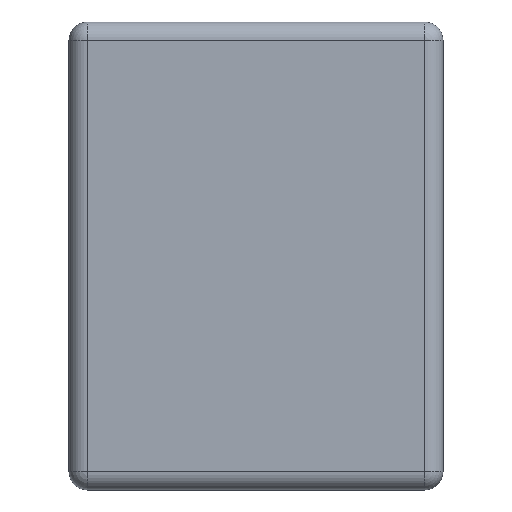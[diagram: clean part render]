
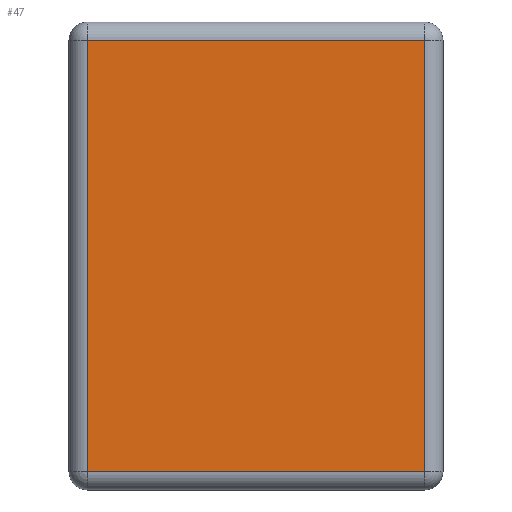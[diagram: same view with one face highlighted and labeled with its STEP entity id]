
A CAD part, front view. The second image highlights one B-rep face of the part: STEP entity #47.
In plain terms, the highlighted planar face has unit normal (0, -1, 0).
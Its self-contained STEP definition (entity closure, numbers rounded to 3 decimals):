
#14 = VERTEX_POINT ( 'NONE', #362 ) ;
#23 = ORIENTED_EDGE ( 'NONE', *, *, #63, .T. ) ;
#31 = VERTEX_POINT ( 'NONE', #590 ) ;
#33 = VERTEX_POINT ( 'NONE', #569 ) ;
#34 = EDGE_LOOP ( 'NONE', ( #75, #70, #46, #23 ) ) ;
#38 = EDGE_CURVE ( 'NONE', #31, #33, #575, .T. ) ;
#40 = EDGE_CURVE ( 'NONE', #14, #53, #562, .T. ) ;
#46 = ORIENTED_EDGE ( 'NONE', *, *, #38, .T. ) ;
#47 = ADVANCED_FACE ( 'NONE', ( #548 ), #593, .F. ) ;
#53 = VERTEX_POINT ( 'NONE', #585 ) ;
#63 = EDGE_CURVE ( 'NONE', #33, #14, #597, .T. ) ;
#70 = ORIENTED_EDGE ( 'NONE', *, *, #71, .T. ) ;
#71 = EDGE_CURVE ( 'NONE', #53, #31, #609, .T. ) ;
#75 = ORIENTED_EDGE ( 'NONE', *, *, #40, .T. ) ;
#362 = CARTESIAN_POINT ( 'NONE',  ( 18.3, 0., -23.4 ) ) ;
#547 = DIRECTION ( 'NONE',  ( 0., 1., 0. ) ) ;
#548 = FACE_OUTER_BOUND ( 'NONE', #34, .T. ) ;
#553 = DIRECTION ( 'NONE',  ( 0., 0., 1. ) ) ;
#554 = VECTOR ( 'NONE', #553, 1000. ) ;
#555 = CARTESIAN_POINT ( 'NONE',  ( 18.3, 0., -25.4 ) ) ;
#556 = DIRECTION ( 'NONE',  ( 0., 0., -1. ) ) ;
#557 = CARTESIAN_POINT ( 'NONE',  ( -18.3, 0., -25.4 ) ) ;
#560 = VECTOR ( 'NONE', #556, 1000. ) ;
#562 = LINE ( 'NONE', #555, #554 ) ;
#568 = DIRECTION ( 'NONE',  ( 0., 0., 1. ) ) ;
#569 = CARTESIAN_POINT ( 'NONE',  ( -18.3, 0., -23.4 ) ) ;
#575 = LINE ( 'NONE', #557, #560 ) ;
#576 = AXIS2_PLACEMENT_3D ( 'NONE', #584, #547, #568 ) ;
#584 = CARTESIAN_POINT ( 'NONE',  ( -20.3, 0., -25.4 ) ) ;
#585 = CARTESIAN_POINT ( 'NONE',  ( 18.3, 0., 23.4 ) ) ;
#590 = CARTESIAN_POINT ( 'NONE',  ( -18.3, 0., 23.4 ) ) ;
#593 = PLANE ( 'NONE',  #576 ) ;
#597 = LINE ( 'NONE', #602, #624 ) ;
#601 = DIRECTION ( 'NONE',  ( -1., 0., 0. ) ) ;
#602 = CARTESIAN_POINT ( 'NONE',  ( -20.3, 0., -23.4 ) ) ;
#609 = LINE ( 'NONE', #621, #620 ) ;
#620 = VECTOR ( 'NONE', #601, 1000. ) ;
#621 = CARTESIAN_POINT ( 'NONE',  ( -20.3, 0., 23.4 ) ) ;
#624 = VECTOR ( 'NONE', #629, 1000. ) ;
#629 = DIRECTION ( 'NONE',  ( 1., 0., 0. ) ) ;
